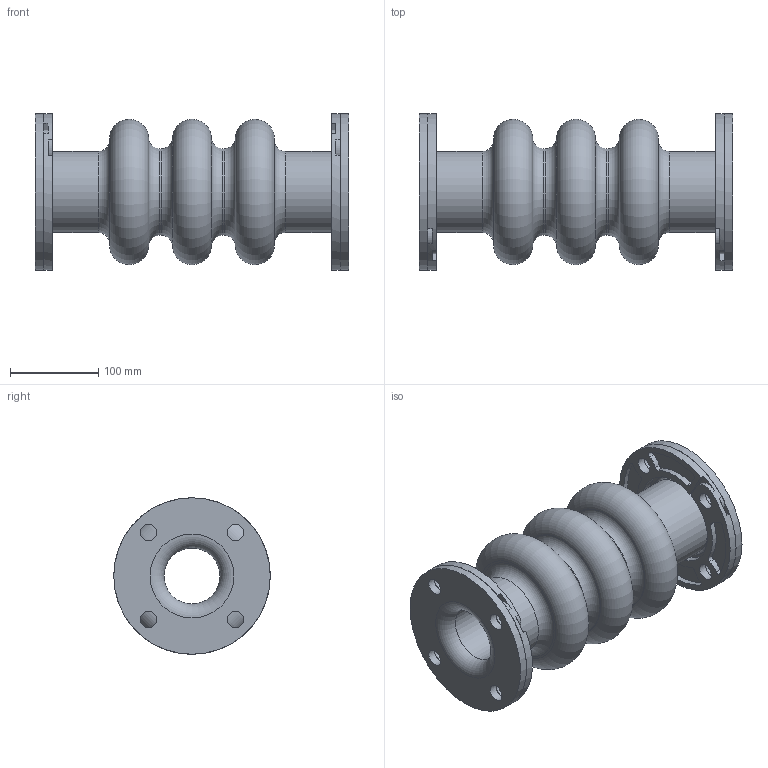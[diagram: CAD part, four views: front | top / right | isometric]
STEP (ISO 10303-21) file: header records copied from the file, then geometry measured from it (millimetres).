
FILE_DESCRIPTION(/* description */ (''),/* implementation_level */ '2;1');
FILE_NAME(/* name */ 'C:\001_Work\Designs\Mercer2014\MQInventor2014\RajR\500 Style\503\New folder\503 2.5IDx14FF.stp',/* time_stamp */ '2016-03-26T18:11:44-04:00',/* author */ ('rramoutar'),/* organization */ ('Mason Industries Inc.'),/* preprocessor_version */ 'ST-DEVELOPER v15.6',/* originating_system */ 'Autodesk Inventor 2015',/* authorisation */ '');
FILE_SCHEMA (('CONFIG_CONTROL_DESIGN'));
Length unit declared in the file: inch
Products named in the file (1): 503 2.5IDx14FF
Bounding box: 355.6 x 177.8 x 177.8 mm (x, y, z)
Volume: 2864409.2 mm3; surface area: 500607.7 mm2
Topology: 3 solids, 3 shells, 182 faces, 476 edges, 306 vertices
Faces by surface type: cylinder 102, plane 52, torus 16, cone 12
Full cylindrical faces by diameter (mm): 19.05 x16, 63.5 x4, 92.075 x2, 98.425 x2, 104.775 x2, 177.8 x4
Entity records: 5612 total; most frequent: DIRECTION 1026, CARTESIAN_POINT 891, ORIENTED_EDGE 820, AXIS2_PLACEMENT_3D 433, EDGE_CURVE 410, VERTEX_POINT 298, EDGE_LOOP 284, CIRCLE 250
